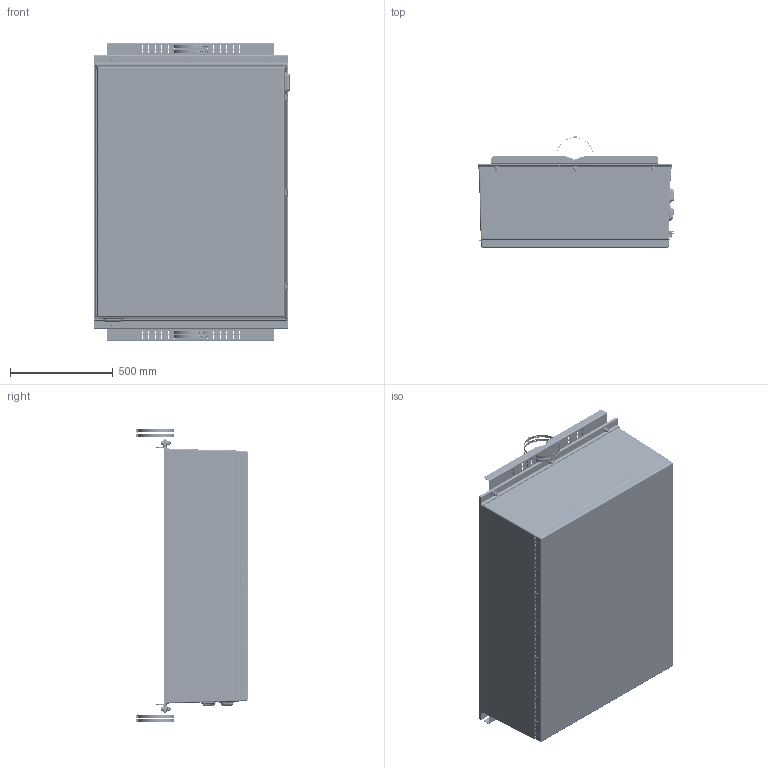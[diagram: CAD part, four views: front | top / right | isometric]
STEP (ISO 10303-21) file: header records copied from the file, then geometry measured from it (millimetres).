
FILE_DESCRIPTION( ( '' ), ' ' );
FILE_NAME( '/vol/tmp/translate-12978584079648999729/5d51e4f01d01e415f2c13648.step', '2019-08-12T22:15:13', ( '' ), ( '' ), ' ', ' ', ' ' );
FILE_SCHEMA( ( 'AUTOMOTIVE_DESIGN { 1 0 10303 214 1 1 1 1 }' ) );
Length unit declared in the file: metre
Products named in the file (57): Latch (483616) <3>; SW3dPS-K3-2403-52_k3_Link_Lock_Housing; SW3dPS-K3-2403-52_k3_upper_cam_clf1; SW3dPS-K3-2403-52_K3_Rivet_Anchor_Plate; SW3dPS-K3-2403-52_K3-1625-52_SLIDE No 3 LINK LOCK; SW3dPS-K3-2403-52_k3_cap_spring_clf; SW3dPS-K3-2403-52_k3_cam_lower_clf; SW3dPS-K3-2403-52_K3-2403-07_k3_wing_lockable_clf; SW3dPS-K3-2403-52_K3-2403-07_k3_padlockable_anchor_plate_clf; SW3dPS-K3-2403-52_K3_Rivet; Latch (483616) <1>; Latch (483616) <2>; Allied Moulded 4X Vent <2>; WVENT4X; WVENT4X_FIP Gasket Profile; Pre-Configured 483616 Fiberglass Cabinet <1>; BONDING FASTENER INSERT; WEMKEEPER316_org; 70-EMSPACER; 70-EMRVT316; 70-EMRWASHER; Rotaloc_F1-B76; 70-EMRVT; RLH Cabinet 483616; Hinge Rod_47IN HINGE PIN; CoverHinge_47IN CoverHinge; 70-EMTHROD; BodyHinge_70-EM48HINGE316; 2476001_Snap Latch; 2477001; 70-EMGSKT_AM4836; Allied_Moulded_AMPOLEMNTEMP <1>; 70-12LKWASHER_DEFAULT; 70-POLEMNTCLAMP_Empire Pole Mount; 70-12FLWASHER_93852A113; 70-121315_DEFAULT; 70-12NUT_DEFAULT; 70-FLNGPM30G; Ground Bus Bar <1>; No. 10 Bus Screw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
Assembly tree (272 placements, depth 4):
  Assem1
    Selected Wide FW 0.375_Selected Wide FW 0.375  x8
    Type B wide flat washer 3/8  x16
    #6405  x16
    Document Holder
    #6426  x2
    hex nut_ai_HNUT 0.3750-16-D-N  x8
    Backboard
    #6560  x2
    Allied_Moulded_AMPOLEMNTEMP <1>
      70-12LKWASHER_DEFAULT  x6
      70-POLEMNTCLAMP_Empire Pole Mount  x4
      70-12FLWASHER_93852A113  x12
      70-121315_DEFAULT  x6
      70-12NUT_DEFAULT  x6
      70-FLNGPM30G  x2
    Pre-Configured 483616 Fiberglass Cabinet <1>
      BONDING FASTENER INSERT  x8
      WEMKEEPER316_org  x3
      70-EMSPACER  x8
      70-EMRVT316  x12
      70-EMRWASHER  x28
      Rotaloc_F1-B76  x8
      70-EMRVT  x32
      RLH Cabinet 483616
      Rotaloc_F1-B76  x8
      Hinge Rod_47IN HINGE PIN
      CoverHinge_47IN CoverHinge
      70-EMTHROD  x8
      BodyHinge_70-EM48HINGE316
      2476001_Snap Latch
      2477001
      70-EMGSKT_AM4836
      Latch (483616) <1>
        SW3dPS-K3-2403-52_k3_cap_spring_clf
        SW3dPS-K3-2403-52_K3-1625-52_SLIDE No 3 LINK LOCK
        SW3dPS-K3-2403-52_k3_Link_Lock_Housing
        SW3dPS-K3-2403-52_K3_Rivet
        SW3dPS-K3-2403-52_k3_upper_cam_clf1
        SW3dPS-K3-2403-52_K3_Rivet_Anchor_Plate
        SW3dPS-K3-2403-52_K3-2403-07_k3_padlockable_anchor_plate_clf
        SW3dPS-K3-2403-52_K3-2403-07_k3_wing_lockable_clf
        SW3dPS-K3-2403-52_k3_cam_lower_clf
      Latch (483616) <2>
        SW3dPS-K3-2403-52_k3_Link_Lock_Housing
        SW3dPS-K3-2403-52_k3_cam_lower_clf
        SW3dPS-K3-2403-52_K3_Rivet
        SW3dPS-K3-2403-52_k3_cap_spring_clf
        SW3dPS-K3-2403-52_k3_upper_cam_clf1
        SW3dPS-K3-2403-52_K3-1625-52_SLIDE No 3 LINK LOCK
        SW3dPS-K3-2403-52_K3-2403-07_k3_padlockable_anchor_plate_clf
        SW3dPS-K3-2403-52_K3-2403-07_k3_wing_lockable_clf
        SW3dPS-K3-2403-52_K3_Rivet_Anchor_Plate
      Latch (483616) <3>
        SW3dPS-K3-2403-52_k3_Link_Lock_Housing
        SW3dPS-K3-2403-52_k3_upper_cam_clf1
        SW3dPS-K3-2403-52_K3_Rivet_Anchor_Plate
        SW3dPS-K3-2403-52_K3-1625-52_SLIDE No 3 LINK LOCK
        SW3dPS-K3-2403-52_k3_cap_spring_clf
        SW3dPS-K3-2403-52_k3_cam_lower_clf
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Bounding box: 954.72 x 542.96 x 1451.61 mm (x, y, z)
Volume: 40386248.1 mm3; surface area: 12812577.2 mm2
Topology: 262 solids, 263 shells, 12223 faces, 32907 edges, 21454 vertices
Faces by surface type: plane 6253, cylinder 2807, extrusion 1082, torus 750, bspline 702, cone 422, sphere 169, revolution 38
Full cylindrical faces by diameter (mm): 0.412 x4, 0.525 x4, 1.702 x3, 2.21 x3, 2.489 x3, 2.54 x32, 2.6 x3, 2.794 x15, 3.175 x16, 3.302 x16, 3.429 x3, 3.505 x16, 3.556 x3, 3.81 x6, 3.967 x4, 4.572 x6, 4.775 x44, 4.8 x3, 4.851 x50, 4.869 x4, 4.902 x6, 4.928 x28, 4.953 x6, 4.978 x16, 5.08 x8, 5.156 x32, 5.41 x3, 5.944 x2, 6.147 x2, 6.35 x11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
Entity records: 188437 total; most frequent: CARTESIAN_POINT 63500, ORIENTED_EDGE 19672, DIRECTION 18702, EDGE_CURVE 9836, AXIS2_PLACEMENT_3D 6665, VERTEX_POINT 6580, VECTOR 5361, LINE 5089
